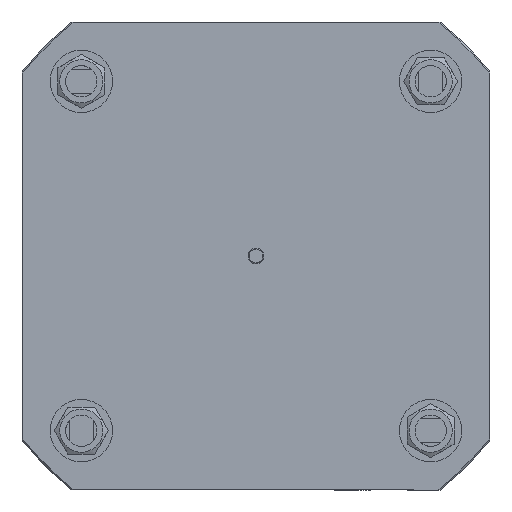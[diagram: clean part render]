
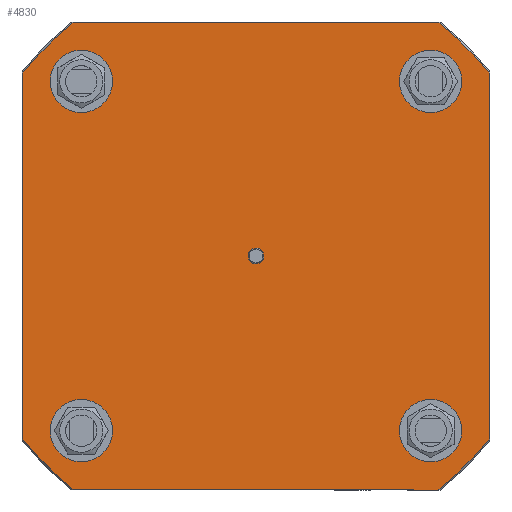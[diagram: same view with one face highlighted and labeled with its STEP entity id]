
A CAD part, left-side view. The second image highlights one B-rep face of the part: STEP entity #4830.
In plain terms, the highlighted planar face has unit normal (-1, 0, 0).
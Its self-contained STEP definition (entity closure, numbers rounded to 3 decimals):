
#184=FACE_BOUND('',#877,.T.);
#185=FACE_BOUND('',#878,.T.);
#186=FACE_BOUND('',#879,.T.);
#187=FACE_BOUND('',#880,.T.);
#188=FACE_BOUND('',#881,.T.);
#292=PLANE('',#5268);
#568=FACE_OUTER_BOUND('',#876,.T.);
#876=EDGE_LOOP('',(#3660,#3661,#3662,#3663,#3664,#3665,#3666,#3667));
#877=EDGE_LOOP('',(#3668));
#878=EDGE_LOOP('',(#3669));
#879=EDGE_LOOP('',(#3670));
#880=EDGE_LOOP('',(#3671));
#881=EDGE_LOOP('',(#3672));
#1195=LINE('',#7832,#1452);
#1196=LINE('',#7836,#1453);
#1197=LINE('',#7840,#1454);
#1198=LINE('',#7844,#1455);
#1452=VECTOR('',#6257,10.);
#1453=VECTOR('',#6260,10.);
#1454=VECTOR('',#6263,10.);
#1455=VECTOR('',#6266,10.);
#1565=CIRCLE('',#4991,3.);
#1579=CIRCLE('',#5036,12.);
#1581=CIRCLE('',#5040,12.);
#1583=CIRCLE('',#5044,12.);
#1588=CIRCLE('',#5060,12.);
#1702=CIRCLE('',#5269,114.);
#1703=CIRCLE('',#5270,114.);
#1704=CIRCLE('',#5271,114.);
#1705=CIRCLE('',#5272,114.);
#1850=VERTEX_POINT('',#6940);
#1900=VERTEX_POINT('',#7169);
#1902=VERTEX_POINT('',#7176);
#1904=VERTEX_POINT('',#7183);
#1921=VERTEX_POINT('',#7261);
#2086=VERTEX_POINT('',#7830);
#2087=VERTEX_POINT('',#7831);
#2088=VERTEX_POINT('',#7833);
#2089=VERTEX_POINT('',#7835);
#2090=VERTEX_POINT('',#7837);
#2091=VERTEX_POINT('',#7839);
#2092=VERTEX_POINT('',#7841);
#2093=VERTEX_POINT('',#7843);
#2295=EDGE_CURVE('',#1850,#1850,#1565,.T.);
#2371=EDGE_CURVE('',#1900,#1900,#1579,.T.);
#2374=EDGE_CURVE('',#1902,#1902,#1581,.T.);
#2377=EDGE_CURVE('',#1904,#1904,#1583,.T.);
#2403=EDGE_CURVE('',#1921,#1921,#1588,.T.);
#2648=EDGE_CURVE('',#2086,#2087,#1195,.T.);
#2649=EDGE_CURVE('',#2087,#2088,#1702,.T.);
#2650=EDGE_CURVE('',#2088,#2089,#1196,.T.);
#2651=EDGE_CURVE('',#2089,#2090,#1703,.T.);
#2652=EDGE_CURVE('',#2090,#2091,#1197,.T.);
#2653=EDGE_CURVE('',#2091,#2092,#1704,.T.);
#2654=EDGE_CURVE('',#2092,#2093,#1198,.T.);
#2655=EDGE_CURVE('',#2093,#2086,#1705,.T.);
#3660=ORIENTED_EDGE('',*,*,#2648,.T.);
#3661=ORIENTED_EDGE('',*,*,#2649,.T.);
#3662=ORIENTED_EDGE('',*,*,#2650,.T.);
#3663=ORIENTED_EDGE('',*,*,#2651,.T.);
#3664=ORIENTED_EDGE('',*,*,#2652,.T.);
#3665=ORIENTED_EDGE('',*,*,#2653,.T.);
#3666=ORIENTED_EDGE('',*,*,#2654,.T.);
#3667=ORIENTED_EDGE('',*,*,#2655,.T.);
#3668=ORIENTED_EDGE('',*,*,#2295,.T.);
#3669=ORIENTED_EDGE('',*,*,#2371,.T.);
#3670=ORIENTED_EDGE('',*,*,#2374,.T.);
#3671=ORIENTED_EDGE('',*,*,#2377,.T.);
#3672=ORIENTED_EDGE('',*,*,#2403,.T.);
#4830=ADVANCED_FACE('',(#568,#184,#185,#186,#187,#188),#292,.T.);
#4991=AXIS2_PLACEMENT_3D('',#6941,#5557,#5558);
#5036=AXIS2_PLACEMENT_3D('',#7170,#5673,#5674);
#5040=AXIS2_PLACEMENT_3D('',#7177,#5682,#5683);
#5044=AXIS2_PLACEMENT_3D('',#7184,#5691,#5692);
#5060=AXIS2_PLACEMENT_3D('',#7262,#5732,#5733);
#5268=AXIS2_PLACEMENT_3D('',#7829,#6255,#6256);
#5269=AXIS2_PLACEMENT_3D('',#7834,#6258,#6259);
#5270=AXIS2_PLACEMENT_3D('',#7838,#6261,#6262);
#5271=AXIS2_PLACEMENT_3D('',#7842,#6264,#6265);
#5272=AXIS2_PLACEMENT_3D('',#7845,#6267,#6268);
#5557=DIRECTION('center_axis',(1.,0.,0.));
#5558=DIRECTION('ref_axis',(0.,0.963,0.268));
#5673=DIRECTION('center_axis',(1.,0.,0.));
#5674=DIRECTION('ref_axis',(0.,-1.,0.));
#5682=DIRECTION('center_axis',(1.,0.,0.));
#5683=DIRECTION('ref_axis',(0.,0.,
1.));
#5691=DIRECTION('center_axis',(1.,0.,0.));
#5692=DIRECTION('ref_axis',(0.,1.,0.));
#5732=DIRECTION('center_axis',(1.,0.,0.));
#5733=DIRECTION('ref_axis',(0.,0.,-1.));
#6255=DIRECTION('center_axis',(-1.,0.,0.));
#6256=DIRECTION('ref_axis',(0.,0.,-1.));
#6257=DIRECTION('',(0.,-1.,0.));
#6258=DIRECTION('center_axis',(-1.,0.,0.));
#6259=DIRECTION('ref_axis',(0.,0.,-1.));
#6260=DIRECTION('',(0.,0.,1.));
#6261=DIRECTION('center_axis',(-1.,0.,0.));
#6262=DIRECTION('ref_axis',(0.,0.,-1.));
#6263=DIRECTION('',(0.,1.,0.));
#6264=DIRECTION('center_axis',(-1.,0.,0.));
#6265=DIRECTION('ref_axis',(0.,0.,-1.));
#6266=DIRECTION('',(0.,0.,-1.));
#6267=DIRECTION('center_axis',(-1.,0.,0.));
#6268=DIRECTION('ref_axis',(0.,0.,-1.));
#6940=CARTESIAN_POINT('',(-169.26,70.763,53.613));
#6941=CARTESIAN_POINT('Origin',(-169.26,73.652,54.419));
#7169=CARTESIAN_POINT('',(-169.26,152.828,-12.756));
#7170=CARTESIAN_POINT('Origin',(-169.26,140.828,-12.756));
#7176=CARTESIAN_POINT('',(-169.26,6.477,-24.756));
#7177=CARTESIAN_POINT('Origin',(-169.26,6.477,-12.756));
#7183=CARTESIAN_POINT('',(-169.26,-5.523,121.594));
#7184=CARTESIAN_POINT('Origin',(-169.26,6.477,121.594));
#7261=CARTESIAN_POINT('',(-169.26,140.828,133.594));
#7262=CARTESIAN_POINT('Origin',(-169.26,140.828,121.594));
#7829=CARTESIAN_POINT('Origin',(-169.26,70.552,54.419));
#7830=CARTESIAN_POINT('',(-169.26,143.624,-35.581));
#7831=CARTESIAN_POINT('',(-169.26,3.681,-35.581));
#7832=CARTESIAN_POINT('',(-169.26,107.897,-35.581));
#7833=CARTESIAN_POINT('',(-169.26,-16.348,-15.553));
#7834=CARTESIAN_POINT('Origin',(-169.26,73.652,54.419));
#7835=CARTESIAN_POINT('',(-169.26,-16.348,124.39));
#7836=CARTESIAN_POINT('',(-169.26,-16.348,18.624));
#7837=CARTESIAN_POINT('',(-169.26,3.681,144.419));
#7838=CARTESIAN_POINT('Origin',(-169.26,73.652,54.419));
#7839=CARTESIAN_POINT('',(-169.26,143.624,144.419));
#7840=CARTESIAN_POINT('',(-169.26,36.308,144.419));
#7841=CARTESIAN_POINT('',(-169.26,163.652,124.39));
#7842=CARTESIAN_POINT('Origin',(-169.26,73.652,54.419));
#7843=CARTESIAN_POINT('',(-169.26,163.652,-15.553));
#7844=CARTESIAN_POINT('',(-169.26,163.652,90.213));
#7845=CARTESIAN_POINT('Origin',(-169.26,73.652,54.419));
